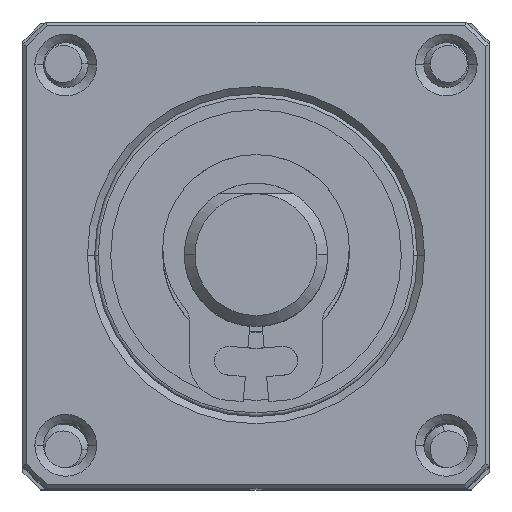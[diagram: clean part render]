
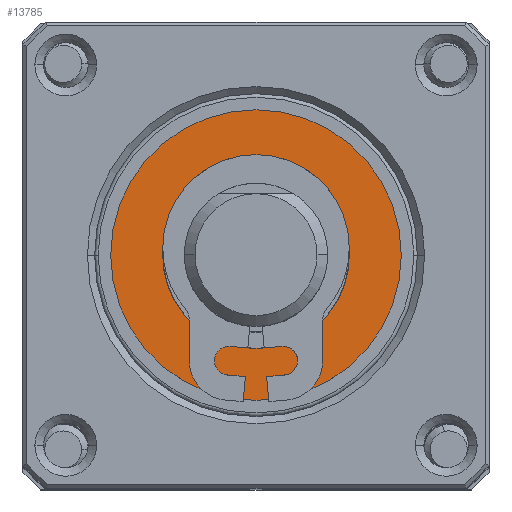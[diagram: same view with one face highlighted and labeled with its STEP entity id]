
A CAD part, top view. The second image highlights one B-rep face of the part: STEP entity #13785.
In plain terms, the highlighted planar face has unit normal (0, 0, 1).
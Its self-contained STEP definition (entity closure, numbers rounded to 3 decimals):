
#786 = CIRCLE ( 'NONE', #4343, 2.6 ) ;
#1566 = CARTESIAN_POINT ( 'NONE',  ( 0., 0., 26.934 ) ) ;
#2336 = ORIENTED_EDGE ( 'NONE', *, *, #17316, .T. ) ;
#2619 = EDGE_LOOP ( 'NONE', ( #11249, #3329 ) ) ;
#3329 = ORIENTED_EDGE ( 'NONE', *, *, #10841, .F. ) ;
#3460 = EDGE_LOOP ( 'NONE', ( #15000, #2336 ) ) ;
#4343 = AXIS2_PLACEMENT_3D ( 'NONE', #5403, #14207, #14407 ) ;
#4585 = CARTESIAN_POINT ( 'NONE',  ( 0., 2.6, 26.934 ) ) ;
#4683 = DIRECTION ( 'NONE',  ( 0., 1., 0. ) ) ;
#4735 = CARTESIAN_POINT ( 'NONE',  ( 0., 0., 26.934 ) ) ;
#5122 = DIRECTION ( 'NONE',  ( 0., 0., 1. ) ) ;
#5173 = CIRCLE ( 'NONE', #16774, 4.05 ) ;
#5403 = CARTESIAN_POINT ( 'NONE',  ( 0., 0., 26.934 ) ) ;
#6506 = CARTESIAN_POINT ( 'NONE',  ( 0., 2.6, 26.934 ) ) ;
#6938 = CARTESIAN_POINT ( 'NONE',  ( 0., 0., 26.934 ) ) ;
#8467 = DIRECTION ( 'NONE',  ( 1., 0., 0. ) ) ;
#10548 = FACE_OUTER_BOUND ( 'NONE', #3460, .T. ) ;
#10622 = CIRCLE ( 'NONE', #18953, 4.05 ) ;
#10841 = EDGE_CURVE ( 'NONE', #11977, #11094, #17898, .T. ) ;
#11094 = VERTEX_POINT ( 'NONE', #19680 ) ;
#11198 = DIRECTION ( 'NONE',  ( 0., 0., 1. ) ) ;
#11249 = ORIENTED_EDGE ( 'NONE', *, *, #18900, .F. ) ;
#11977 = VERTEX_POINT ( 'NONE', #6506 ) ;
#12362 = DIRECTION ( 'NONE',  ( 0., 0., 1. ) ) ;
#13785 = ADVANCED_FACE ( 'NONE', ( #19793, #10548 ), #16586, .T. ) ;
#14053 = AXIS2_PLACEMENT_3D ( 'NONE', #1566, #14090, #15691 ) ;
#14090 = DIRECTION ( 'NONE',  ( 0., 0., 1. ) ) ;
#14207 = DIRECTION ( 'NONE',  ( 0., 0., 1. ) ) ;
#14232 = VERTEX_POINT ( 'NONE', #18160 ) ;
#14407 = DIRECTION ( 'NONE',  ( 1., 0., 0. ) ) ;
#15000 = ORIENTED_EDGE ( 'NONE', *, *, #15773, .T. ) ;
#15208 = AXIS2_PLACEMENT_3D ( 'NONE', #4585, #12362, #4683 ) ;
#15691 = DIRECTION ( 'NONE',  ( 1., 0., 0. ) ) ;
#15773 = EDGE_CURVE ( 'NONE', #18224, #14232, #5173, .T. ) ;
#16237 = CARTESIAN_POINT ( 'NONE',  ( 4.05, 0., 26.934 ) ) ;
#16586 = PLANE ( 'NONE',  #15208 ) ;
#16774 = AXIS2_PLACEMENT_3D ( 'NONE', #4735, #11198, #18731 ) ;
#17316 = EDGE_CURVE ( 'NONE', #14232, #18224, #10622, .T. ) ;
#17898 = CIRCLE ( 'NONE', #14053, 2.6 ) ;
#18160 = CARTESIAN_POINT ( 'NONE',  ( -4.05, 0., 26.934 ) ) ;
#18224 = VERTEX_POINT ( 'NONE', #16237 ) ;
#18731 = DIRECTION ( 'NONE',  ( 1., 0., 0. ) ) ;
#18900 = EDGE_CURVE ( 'NONE', #11094, #11977, #786, .T. ) ;
#18953 = AXIS2_PLACEMENT_3D ( 'NONE', #6938, #5122, #8467 ) ;
#19680 = CARTESIAN_POINT ( 'NONE',  ( 0., -2.6, 26.934 ) ) ;
#19793 = FACE_BOUND ( 'NONE', #2619, .T. ) ;
